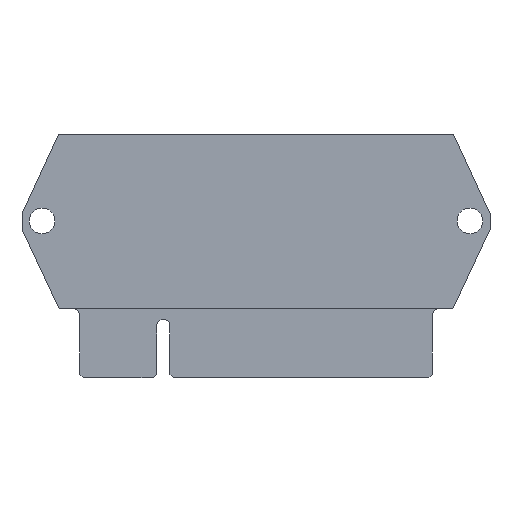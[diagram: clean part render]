
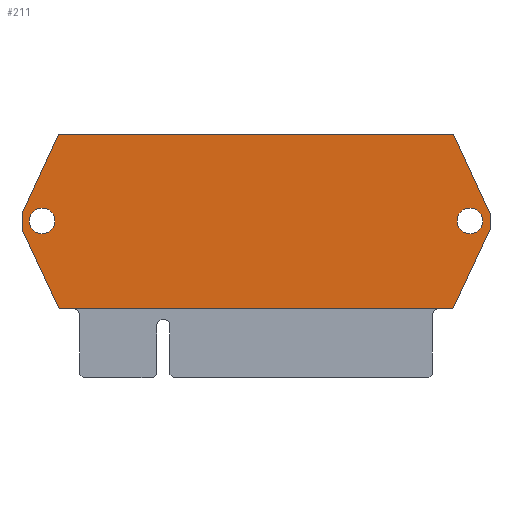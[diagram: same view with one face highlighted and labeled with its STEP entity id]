
A CAD part, front view. The second image highlights one B-rep face of the part: STEP entity #211.
In plain terms, the highlighted planar face has unit normal (0, -1, 0).
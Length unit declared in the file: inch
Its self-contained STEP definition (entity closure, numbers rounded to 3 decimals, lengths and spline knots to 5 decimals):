
#118=CARTESIAN_POINT('',(7.793,6.84196,0.05904));
#119=VERTEX_POINT('',#118);
#120=CARTESIAN_POINT('',(5.537,6.84196,0.05904));
#121=VERTEX_POINT('',#120);
#122=CARTESIAN_POINT('',(5.501,6.84196,0.05904));
#123=DIRECTION('',(-1.,0.,0.));
#124=VECTOR('',#123,1.);
#125=LINE('',#122,#124);
#126=EDGE_CURVE('',#119,#121,#125,.T.);
#127=ORIENTED_EDGE('',*,*,#126,.F.);
#128=CARTESIAN_POINT('',(8.005,6.84196,0.51264));
#129=VERTEX_POINT('',#128);
#130=CARTESIAN_POINT('',(7.78244,6.84196,0.03644));
#131=DIRECTION('',(-0.423,0.,-0.906));
#132=VECTOR('',#131,1.);
#133=LINE('',#130,#132);
#134=EDGE_CURVE('',#129,#119,#133,.T.);
#135=ORIENTED_EDGE('',*,*,#134,.F.);
#136=CARTESIAN_POINT('',(8.005,6.84196,0.60573));
#137=VERTEX_POINT('',#136);
#138=CARTESIAN_POINT('',(8.005,6.84196,3.07581));
#139=DIRECTION('',(0.,0.,-1.));
#140=VECTOR('',#139,1.);
#141=LINE('',#138,#140);
#142=EDGE_CURVE('',#137,#129,#141,.T.);
#143=ORIENTED_EDGE('',*,*,#142,.F.);
#144=CARTESIAN_POINT('',(7.796,6.84196,1.05904));
#145=VERTEX_POINT('',#144);
#146=CARTESIAN_POINT('',(7.68803,6.84196,1.29321));
#147=DIRECTION('',(0.419,0.,-0.908));
#148=VECTOR('',#147,1.);
#149=LINE('',#146,#148);
#150=EDGE_CURVE('',#145,#137,#149,.T.);
#151=ORIENTED_EDGE('',*,*,#150,.F.);
#152=CARTESIAN_POINT('',(5.534,6.84196,1.05904));
#153=VERTEX_POINT('',#152);
#154=CARTESIAN_POINT('',(6.04475,6.84196,1.05904));
#155=DIRECTION('',(1.,0.,0.));
#156=VECTOR('',#155,1.);
#157=LINE('',#154,#156);
#158=EDGE_CURVE('',#153,#145,#157,.T.);
#159=ORIENTED_EDGE('',*,*,#158,.F.);
#160=CARTESIAN_POINT('',(5.325,6.84196,0.60573));
#161=VERTEX_POINT('',#160);
#162=CARTESIAN_POINT('',(5.4245,6.84196,0.82154));
#163=DIRECTION('',(0.419,0.,0.908));
#164=VECTOR('',#163,1.);
#165=LINE('',#162,#164);
#166=EDGE_CURVE('',#161,#153,#165,.T.);
#167=ORIENTED_EDGE('',*,*,#166,.F.);
#168=CARTESIAN_POINT('',(5.325,6.84196,0.51264));
#169=VERTEX_POINT('',#168);
#170=CARTESIAN_POINT('',(5.325,6.84196,3.08469));
#171=DIRECTION('',(0.,0.,-1.));
#172=VECTOR('',#171,1.);
#173=LINE('',#170,#172);
#174=EDGE_CURVE('',#161,#169,#173,.T.);
#175=ORIENTED_EDGE('',*,*,#174,.T.);
#176=CARTESIAN_POINT('',(5.32518,6.84196,0.51227));
#177=DIRECTION('',(-0.423,0.,0.906));
#178=VECTOR('',#177,1.);
#179=LINE('',#176,#178);
#180=EDGE_CURVE('',#121,#169,#179,.T.);
#181=ORIENTED_EDGE('',*,*,#180,.F.);
#182=EDGE_LOOP('',(#127,#135,#143,#151,#159,#167,#175,#181));
#183=FACE_OUTER_BOUND('',#182,.T.);
#184=CARTESIAN_POINT('',(5.3665,6.84196,0.56254));
#185=VERTEX_POINT('',#184);
#186=CARTESIAN_POINT('',(5.44,6.84196,0.56254));
#187=DIRECTION('',(0.,1.,0.));
#188=DIRECTION('',(1.,0.,0.));
#189=AXIS2_PLACEMENT_3D('',#186,#187,#188);
#190=CIRCLE('',#189,0.0735);
#191=EDGE_CURVE('',#185,#185,#190,.T.);
#192=ORIENTED_EDGE('',*,*,#191,.T.);
#193=EDGE_LOOP('',(#192));
#194=FACE_BOUND('',#193,.T.);
#195=CARTESIAN_POINT('',(7.8165,6.84196,0.56254));
#196=VERTEX_POINT('',#195);
#197=CARTESIAN_POINT('',(7.89,6.84196,0.56254));
#198=DIRECTION('',(0.,1.,0.));
#199=DIRECTION('',(1.,0.,0.));
#200=AXIS2_PLACEMENT_3D('',#197,#198,#199);
#201=CIRCLE('',#200,0.0735);
#202=EDGE_CURVE('',#196,#196,#201,.T.);
#203=ORIENTED_EDGE('',*,*,#202,.T.);
#204=EDGE_LOOP('',(#203));
#205=FACE_BOUND('',#204,.T.);
#206=CARTESIAN_POINT('',(5.4245,6.84196,0.82154));
#207=DIRECTION('',(0.,1.,0.));
#208=DIRECTION('',(-1.,0.,0.));
#209=AXIS2_PLACEMENT_3D('',#206,#207,#208);
#210=PLANE('',#209);
#211=ADVANCED_FACE('',(#183,#194,#205),#210,.F.);
